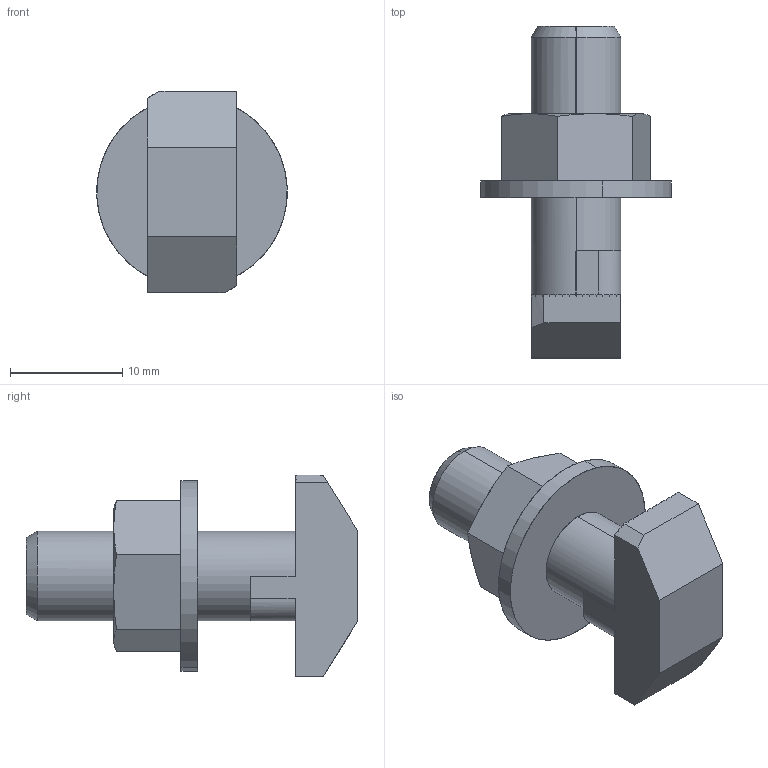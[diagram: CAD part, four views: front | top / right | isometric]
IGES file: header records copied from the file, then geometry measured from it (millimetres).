
Start section: SolidWorks IGES file using analytic representation for surfaces
Global section: file name: D:\LETROMEC CATALOGUE\PROFILE HAMMER HEAD\CP-HH8X25.IGS; native system: SolidWorks 2013; preprocessor: SolidWorks 2013; author: User; date: 180315.202649; units: millimetre
Bounding box: 17 x 29.6 x 18 mm (x, y, z)
Surface area: 2015.3 mm2 (no closed solid volume)
Topology: 0 solids, 0 shells, 110 faces, 914 edges, 914 vertices
Faces by surface type: bspline 88, revolution 22
